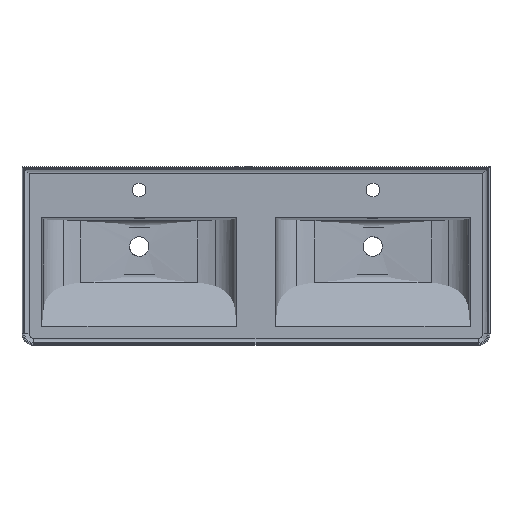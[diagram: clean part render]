
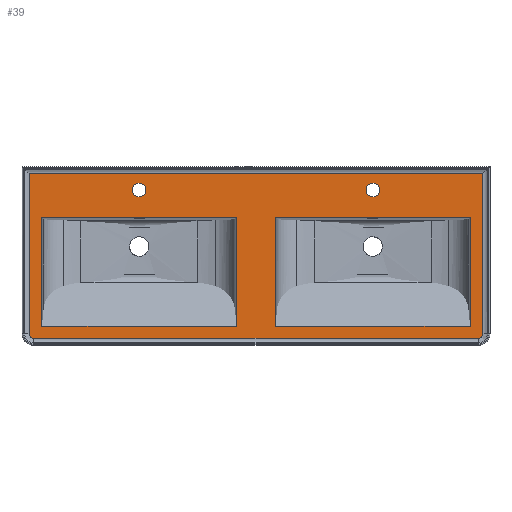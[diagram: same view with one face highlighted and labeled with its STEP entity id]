
A CAD part, top view. The second image highlights one B-rep face of the part: STEP entity #39.
In plain terms, the highlighted planar face has unit normal (0, 0, 1).
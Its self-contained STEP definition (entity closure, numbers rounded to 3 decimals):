
#39 = ADVANCED_FACE('',(#40,#92,#112,#146,#166),#200,.T.);
#40 = FACE_BOUND('',#41,.T.);
#41 = EDGE_LOOP('',(#42,#52,#60,#68,#77,#85));
#42 = ORIENTED_EDGE('',*,*,#43,.F.);
#43 = EDGE_CURVE('',#44,#46,#48,.T.);
#44 = VERTEX_POINT('',#45);
#45 = CARTESIAN_POINT('',(582.918,186.997,
    45.));
#46 = VERTEX_POINT('',#47);
#47 = CARTESIAN_POINT('',(582.918,-223.921,
    45.));
#48 = LINE('',#49,#50);
#49 = CARTESIAN_POINT('',(582.918,186.997,
    45.));
#50 = VECTOR('',#51,1.);
#51 = DIRECTION('',(0.,-1.,0.));
#52 = ORIENTED_EDGE('',*,*,#53,.T.);
#53 = EDGE_CURVE('',#44,#54,#56,.T.);
#54 = VERTEX_POINT('',#55);
#55 = CARTESIAN_POINT('',(-582.918,186.997,
    45.));
#56 = LINE('',#57,#58);
#57 = CARTESIAN_POINT('',(-582.918,186.997,
    45.));
#58 = VECTOR('',#59,1.);
#59 = DIRECTION('',(-1.,0.,0.));
#60 = ORIENTED_EDGE('',*,*,#61,.F.);
#61 = EDGE_CURVE('',#62,#54,#64,.T.);
#62 = VERTEX_POINT('',#63);
#63 = CARTESIAN_POINT('',(-582.918,-223.921,
    45.));
#64 = LINE('',#65,#66);
#65 = CARTESIAN_POINT('',(-582.918,-223.921,
    45.));
#66 = VECTOR('',#67,1.);
#67 = DIRECTION('',(0.,1.,0.));
#68 = ORIENTED_EDGE('',*,*,#69,.F.);
#69 = EDGE_CURVE('',#70,#62,#72,.T.);
#70 = VERTEX_POINT('',#71);
#71 = CARTESIAN_POINT('',(-570.918,-235.921,
    45.));
#72 = CIRCLE('',#73,12.);
#73 = AXIS2_PLACEMENT_3D('',#74,#75,#76);
#74 = CARTESIAN_POINT('',(-570.918,-223.921,
    45.));
#75 = DIRECTION('',(0.,0.,-1.));
#76 = DIRECTION('',(0.,-1.,-0.));
#77 = ORIENTED_EDGE('',*,*,#78,.F.);
#78 = EDGE_CURVE('',#79,#70,#81,.T.);
#79 = VERTEX_POINT('',#80);
#80 = CARTESIAN_POINT('',(570.918,-235.921,
    45.));
#81 = LINE('',#82,#83);
#82 = CARTESIAN_POINT('',(570.918,-235.921,
    45.));
#83 = VECTOR('',#84,1.);
#84 = DIRECTION('',(-1.,0.,0.));
#85 = ORIENTED_EDGE('',*,*,#86,.F.);
#86 = EDGE_CURVE('',#46,#79,#87,.T.);
#87 = CIRCLE('',#88,12.);
#88 = AXIS2_PLACEMENT_3D('',#89,#90,#91);
#89 = CARTESIAN_POINT('',(570.918,-223.921,
    45.));
#90 = DIRECTION('',(0.,0.,-1.));
#91 = DIRECTION('',(1.,0.,0.));
#92 = FACE_BOUND('',#93,.T.);
#93 = EDGE_LOOP('',(#94,#105));
#94 = ORIENTED_EDGE('',*,*,#95,.T.);
#95 = EDGE_CURVE('',#96,#98,#100,.T.);
#96 = VERTEX_POINT('',#97);
#97 = CARTESIAN_POINT('',(-282.5,144.997,
    45.));
#98 = VERTEX_POINT('',#99);
#99 = CARTESIAN_POINT('',(-317.5,144.997,
    45.));
#100 = CIRCLE('',#101,17.5);
#101 = AXIS2_PLACEMENT_3D('',#102,#103,#104);
#102 = CARTESIAN_POINT('',(-300.,144.997,
    45.));
#103 = DIRECTION('',(0.,0.,-1.));
#104 = DIRECTION('',(1.,0.,0.));
#105 = ORIENTED_EDGE('',*,*,#106,.T.);
#106 = EDGE_CURVE('',#98,#96,#107,.T.);
#107 = CIRCLE('',#108,17.5);
#108 = AXIS2_PLACEMENT_3D('',#109,#110,#111);
#109 = CARTESIAN_POINT('',(-300.,144.997,
    45.));
#110 = DIRECTION('',(0.,0.,-1.));
#111 = DIRECTION('',(1.,0.,0.));
#112 = FACE_BOUND('',#113,.T.);
#113 = EDGE_LOOP('',(#114,#124,#132,#140));
#114 = ORIENTED_EDGE('',*,*,#115,.T.);
#115 = EDGE_CURVE('',#116,#118,#120,.T.);
#116 = VERTEX_POINT('',#117);
#117 = CARTESIAN_POINT('',(-50.039,-205.205,
    45.));
#118 = VERTEX_POINT('',#119);
#119 = CARTESIAN_POINT('',(-549.961,-205.205,
    45.));
#120 = LINE('',#121,#122);
#121 = CARTESIAN_POINT('',(-50.039,-205.205,
    45.));
#122 = VECTOR('',#123,1.);
#123 = DIRECTION('',(-1.,0.,0.));
#124 = ORIENTED_EDGE('',*,*,#125,.T.);
#125 = EDGE_CURVE('',#118,#126,#128,.T.);
#126 = VERTEX_POINT('',#127);
#127 = CARTESIAN_POINT('',(-549.961,75.115,
    45.));
#128 = LINE('',#129,#130);
#129 = CARTESIAN_POINT('',(-549.961,-205.205,
    45.));
#130 = VECTOR('',#131,1.);
#131 = DIRECTION('',(0.,1.,0.));
#132 = ORIENTED_EDGE('',*,*,#133,.T.);
#133 = EDGE_CURVE('',#126,#134,#136,.T.);
#134 = VERTEX_POINT('',#135);
#135 = CARTESIAN_POINT('',(-50.039,75.115,
    45.));
#136 = LINE('',#137,#138);
#137 = CARTESIAN_POINT('',(-549.961,75.115,
    45.));
#138 = VECTOR('',#139,1.);
#139 = DIRECTION('',(1.,0.,0.));
#140 = ORIENTED_EDGE('',*,*,#141,.T.);
#141 = EDGE_CURVE('',#134,#116,#142,.T.);
#142 = LINE('',#143,#144);
#143 = CARTESIAN_POINT('',(-50.039,75.115,
    45.));
#144 = VECTOR('',#145,1.);
#145 = DIRECTION('',(0.,-1.,0.));
#146 = FACE_BOUND('',#147,.T.);
#147 = EDGE_LOOP('',(#148,#159));
#148 = ORIENTED_EDGE('',*,*,#149,.T.);
#149 = EDGE_CURVE('',#150,#152,#154,.T.);
#150 = VERTEX_POINT('',#151);
#151 = CARTESIAN_POINT('',(282.5,144.997,
    45.));
#152 = VERTEX_POINT('',#153);
#153 = CARTESIAN_POINT('',(317.5,144.997,
    45.));
#154 = CIRCLE('',#155,17.5);
#155 = AXIS2_PLACEMENT_3D('',#156,#157,#158);
#156 = CARTESIAN_POINT('',(300.,144.997,
    45.));
#157 = DIRECTION('',(0.,0.,-1.));
#158 = DIRECTION('',(-1.,0.,0.));
#159 = ORIENTED_EDGE('',*,*,#160,.T.);
#160 = EDGE_CURVE('',#152,#150,#161,.T.);
#161 = CIRCLE('',#162,17.5);
#162 = AXIS2_PLACEMENT_3D('',#163,#164,#165);
#163 = CARTESIAN_POINT('',(300.,144.997,
    45.));
#164 = DIRECTION('',(0.,0.,-1.));
#165 = DIRECTION('',(-1.,0.,0.));
#166 = FACE_BOUND('',#167,.T.);
#167 = EDGE_LOOP('',(#168,#178,#186,#194));
#168 = ORIENTED_EDGE('',*,*,#169,.T.);
#169 = EDGE_CURVE('',#170,#172,#174,.T.);
#170 = VERTEX_POINT('',#171);
#171 = CARTESIAN_POINT('',(50.039,75.115,
    45.));
#172 = VERTEX_POINT('',#173);
#173 = CARTESIAN_POINT('',(549.961,75.115,
    45.));
#174 = LINE('',#175,#176);
#175 = CARTESIAN_POINT('',(50.039,75.115,
    45.));
#176 = VECTOR('',#177,1.);
#177 = DIRECTION('',(1.,0.,0.));
#178 = ORIENTED_EDGE('',*,*,#179,.T.);
#179 = EDGE_CURVE('',#172,#180,#182,.T.);
#180 = VERTEX_POINT('',#181);
#181 = CARTESIAN_POINT('',(549.961,-205.205,
    45.));
#182 = LINE('',#183,#184);
#183 = CARTESIAN_POINT('',(549.961,75.115,
    45.));
#184 = VECTOR('',#185,1.);
#185 = DIRECTION('',(0.,-1.,0.));
#186 = ORIENTED_EDGE('',*,*,#187,.T.);
#187 = EDGE_CURVE('',#180,#188,#190,.T.);
#188 = VERTEX_POINT('',#189);
#189 = CARTESIAN_POINT('',(50.039,-205.205,
    45.));
#190 = LINE('',#191,#192);
#191 = CARTESIAN_POINT('',(549.961,-205.205,
    45.));
#192 = VECTOR('',#193,1.);
#193 = DIRECTION('',(-1.,0.,0.));
#194 = ORIENTED_EDGE('',*,*,#195,.T.);
#195 = EDGE_CURVE('',#188,#170,#196,.T.);
#196 = LINE('',#197,#198);
#197 = CARTESIAN_POINT('',(50.039,-205.205,
    45.));
#198 = VECTOR('',#199,1.);
#199 = DIRECTION('',(0.,1.,0.));
#200 = PLANE('',#201);
#201 = AXIS2_PLACEMENT_3D('',#202,#203,#204);
#202 = CARTESIAN_POINT('',(-575.918,-223.921,
    45.));
#203 = DIRECTION('',(0.,0.,1.));
#204 = DIRECTION('',(0.,-1.,0.));
